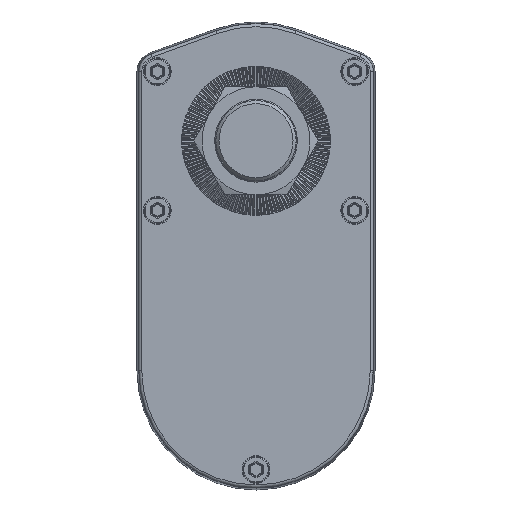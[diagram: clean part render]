
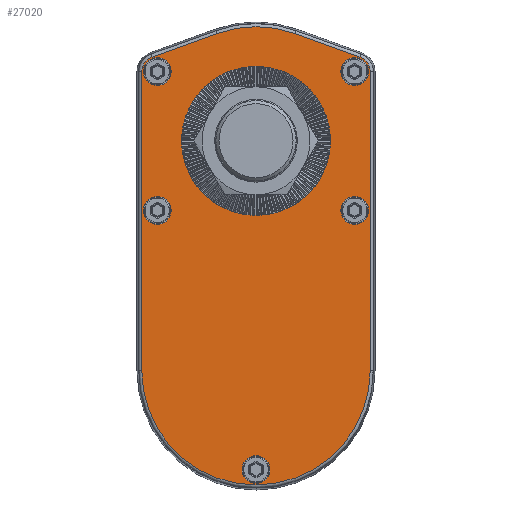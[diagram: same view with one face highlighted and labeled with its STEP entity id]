
A CAD part, top view. The second image highlights one B-rep face of the part: STEP entity #27020.
In plain terms, the highlighted planar face has unit normal (0, 0, 1).
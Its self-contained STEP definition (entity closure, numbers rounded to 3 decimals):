
#50 = CARTESIAN_POINT ( 'NONE',  ( -27.5, -22.54, 40. ) ) ;
#312 = CARTESIAN_POINT ( 'NONE',  ( -37.012, -74.495, 40. ) ) ;
#554 = DIRECTION ( 'NONE',  ( -1., 0., 0. ) ) ;
#649 = DIRECTION ( 'NONE',  ( 1., 0., 0. ) ) ;
#801 = FACE_BOUND ( 'NONE', #1727, .T. ) ;
#1130 = VECTOR ( 'NONE', #19220, 1000. ) ;
#1343 = CARTESIAN_POINT ( 'NONE',  ( -37.012, -74.495, 40. ) ) ;
#1723 = CIRCLE ( 'NONE', #25064, 4.5 ) ;
#1727 = EDGE_LOOP ( 'NONE', ( #3395 ) ) ;
#1791 = VERTEX_POINT ( 'NONE', #18309 ) ;
#1846 = DIRECTION ( 'NONE',  ( 0., 0., 1. ) ) ;
#1859 = EDGE_CURVE ( 'NONE', #26768, #26768, #19466, .T. ) ;
#1924 = EDGE_CURVE ( 'NONE', #21764, #17343, #24118, .T. ) ;
#1980 = CARTESIAN_POINT ( 'NONE',  ( -33.701, 27.179, 40. ) ) ;
#2049 = DIRECTION ( 'NONE',  ( 0., 0., 1. ) ) ;
#2366 = VERTEX_POINT ( 'NONE', #13646 ) ;
#2581 = CARTESIAN_POINT ( 'NONE',  ( 12.586, 34.812, 40. ) ) ;
#2607 = EDGE_CURVE ( 'NONE', #8477, #8477, #6921, .T. ) ;
#2701 = DIRECTION ( 'NONE',  ( 0., 1., 0. ) ) ;
#2868 = CARTESIAN_POINT ( 'NONE',  ( 0., 0., 40. ) ) ;
#3239 = CARTESIAN_POINT ( 'NONE',  ( 32., -22.54, 40. ) ) ;
#3290 = EDGE_CURVE ( 'NONE', #2366, #2366, #5477, .T. ) ;
#3395 = ORIENTED_EDGE ( 'NONE', *, *, #2607, .F. ) ;
#3816 = DIRECTION ( 'NONE',  ( 0., 0., 1. ) ) ;
#4053 = ORIENTED_EDGE ( 'NONE', *, *, #3290, .F. ) ;
#4107 = AXIS2_PLACEMENT_3D ( 'NONE', #2868, #18927, #5218 ) ;
#4704 = DIRECTION ( 'NONE',  ( 0., 0., 1. ) ) ;
#5218 = DIRECTION ( 'NONE',  ( -1., 0., 0. ) ) ;
#5477 = CIRCLE ( 'NONE', #11024, 4.5 ) ;
#5572 = DIRECTION ( 'NONE',  ( -1., 0., 0. ) ) ;
#5714 = ORIENTED_EDGE ( 'NONE', *, *, #21223, .T. ) ;
#5815 = ORIENTED_EDGE ( 'NONE', *, *, #8121, .T. ) ;
#6061 = CARTESIAN_POINT ( 'NONE',  ( 32., 22.46, 40. ) ) ;
#6317 = DIRECTION ( 'NONE',  ( -1., 0., 0. ) ) ;
#6454 = EDGE_CURVE ( 'NONE', #10078, #25250, #7878, .T. ) ;
#6917 = FACE_BOUND ( 'NONE', #20520, .T. ) ;
#6921 = CIRCLE ( 'NONE', #4107, 24.1 ) ;
#6964 = EDGE_LOOP ( 'NONE', ( #7459 ) ) ;
#7317 = DIRECTION ( 'NONE',  ( -0.94, 0.34, 0. ) ) ;
#7398 = VERTEX_POINT ( 'NONE', #9420 ) ;
#7459 = ORIENTED_EDGE ( 'NONE', *, *, #17845, .F. ) ;
#7653 = FACE_BOUND ( 'NONE', #24485, .T. ) ;
#7662 = AXIS2_PLACEMENT_3D ( 'NONE', #15615, #1846, #17907 ) ;
#7878 = LINE ( 'NONE', #14145, #19369 ) ;
#8121 = EDGE_CURVE ( 'NONE', #9553, #1791, #22142, .T. ) ;
#8133 = ORIENTED_EDGE ( 'NONE', *, *, #1924, .T. ) ;
#8325 = DIRECTION ( 'NONE',  ( -1., 0., 0. ) ) ;
#8477 = VERTEX_POINT ( 'NONE', #27385 ) ;
#8801 = ORIENTED_EDGE ( 'NONE', *, *, #6454, .T. ) ;
#9032 = CARTESIAN_POINT ( 'NONE',  ( -27.5, 22.46, 40. ) ) ;
#9238 = VECTOR ( 'NONE', #7317, 1000. ) ;
#9420 = CARTESIAN_POINT ( 'NONE',  ( 4.5, -106.54, 40. ) ) ;
#9435 = ORIENTED_EDGE ( 'NONE', *, *, #1859, .F. ) ;
#9553 = VERTEX_POINT ( 'NONE', #18093 ) ;
#10053 = CARTESIAN_POINT ( 'NONE',  ( 37.012, -74.495, 40. ) ) ;
#10078 = VERTEX_POINT ( 'NONE', #10053 ) ;
#10882 = EDGE_LOOP ( 'NONE', ( #21646 ) ) ;
#11024 = AXIS2_PLACEMENT_3D ( 'NONE', #6061, #22081, #8325 ) ;
#11645 = ORIENTED_EDGE ( 'NONE', *, *, #28551, .T. ) ;
#12015 = CARTESIAN_POINT ( 'NONE',  ( -31.995, 22.46, 40. ) ) ;
#12027 = ORIENTED_EDGE ( 'NONE', *, *, #25101, .F. ) ;
#12217 = VECTOR ( 'NONE', #15109, 1000. ) ;
#13004 = FACE_BOUND ( 'NONE', #6964, .T. ) ;
#13646 = CARTESIAN_POINT ( 'NONE',  ( 27.5, 22.46, 40. ) ) ;
#13750 = AXIS2_PLACEMENT_3D ( 'NONE', #3239, #19276, #5572 ) ;
#14145 = CARTESIAN_POINT ( 'NONE',  ( 37.012, 22.46, 40. ) ) ;
#14286 = CARTESIAN_POINT ( 'NONE',  ( -37.012, 22.46, 40. ) ) ;
#14319 = DIRECTION ( 'NONE',  ( 0., 0., 1. ) ) ;
#14339 = DIRECTION ( 'NONE',  ( -1., 0., 0. ) ) ;
#14361 = AXIS2_PLACEMENT_3D ( 'NONE', #17532, #3816, #19859 ) ;
#14404 = DIRECTION ( 'NONE',  ( 0., 0., 1. ) ) ;
#14410 = EDGE_LOOP ( 'NONE', ( #12027 ) ) ;
#14434 = CIRCLE ( 'NONE', #14649, 37.012 ) ;
#14649 = AXIS2_PLACEMENT_3D ( 'NONE', #28092, #14319, #554 ) ;
#15109 = DIRECTION ( 'NONE',  ( 0., -1., 0. ) ) ;
#15210 = VERTEX_POINT ( 'NONE', #312 ) ;
#15224 = AXIS2_PLACEMENT_3D ( 'NONE', #18411, #4704, #20742 ) ;
#15252 = CIRCLE ( 'NONE', #13750, 4.5 ) ;
#15615 = CARTESIAN_POINT ( 'NONE',  ( 0., -106.54, 40. ) ) ;
#15796 = CARTESIAN_POINT ( 'NONE',  ( -32., -22.54, 40. ) ) ;
#16370 = VERTEX_POINT ( 'NONE', #50 ) ;
#16554 = EDGE_CURVE ( 'NONE', #1791, #21764, #29131, .T. ) ;
#16797 = ORIENTED_EDGE ( 'NONE', *, *, #19345, .T. ) ;
#17343 = VERTEX_POINT ( 'NONE', #1980 ) ;
#17532 = CARTESIAN_POINT ( 'NONE',  ( 31.995, 22.46, 40. ) ) ;
#17692 = CARTESIAN_POINT ( 'NONE',  ( 0., 0., 40. ) ) ;
#17818 = CARTESIAN_POINT ( 'NONE',  ( 37.012, 22.46, 40. ) ) ;
#17845 = EDGE_CURVE ( 'NONE', #16370, #16370, #1723, .T. ) ;
#17907 = DIRECTION ( 'NONE',  ( 1., 0., 0. ) ) ;
#18093 = CARTESIAN_POINT ( 'NONE',  ( 33.701, 27.179, 40. ) ) ;
#18099 = DIRECTION ( 'NONE',  ( 1., 0., 0. ) ) ;
#18309 = CARTESIAN_POINT ( 'NONE',  ( 12.586, 34.812, 40. ) ) ;
#18411 = CARTESIAN_POINT ( 'NONE',  ( 0., 0., 40. ) ) ;
#18927 = DIRECTION ( 'NONE',  ( 0., 0., 1. ) ) ;
#19118 = FACE_BOUND ( 'NONE', #10882, .T. ) ;
#19156 = CIRCLE ( 'NONE', #7662, 4.5 ) ;
#19220 = DIRECTION ( 'NONE',  ( -0.94, -0.34, 0. ) ) ;
#19276 = DIRECTION ( 'NONE',  ( 0., 0., 1. ) ) ;
#19345 = EDGE_CURVE ( 'NONE', #25250, #9553, #27929, .T. ) ;
#19369 = VECTOR ( 'NONE', #2701, 1000. ) ;
#19466 = CIRCLE ( 'NONE', #25396, 4.5 ) ;
#19604 = EDGE_CURVE ( 'NONE', #17343, #29051, #22880, .T. ) ;
#19830 = FACE_BOUND ( 'NONE', #14410, .T. ) ;
#19859 = DIRECTION ( 'NONE',  ( -1., 0., 0. ) ) ;
#20028 = DIRECTION ( 'NONE',  ( 0., 0., -1. ) ) ;
#20520 = EDGE_LOOP ( 'NONE', ( #9435 ) ) ;
#20742 = DIRECTION ( 'NONE',  ( -1., 0., 0. ) ) ;
#20860 = CARTESIAN_POINT ( 'NONE',  ( 27.5, -22.54, 40. ) ) ;
#21223 = EDGE_CURVE ( 'NONE', #29051, #15210, #24393, .T. ) ;
#21343 = ORIENTED_EDGE ( 'NONE', *, *, #19604, .T. ) ;
#21646 = ORIENTED_EDGE ( 'NONE', *, *, #26520, .F. ) ;
#21764 = VERTEX_POINT ( 'NONE', #22492 ) ;
#21888 = AXIS2_PLACEMENT_3D ( 'NONE', #17692, #20028, #6317 ) ;
#22081 = DIRECTION ( 'NONE',  ( 0., 0., 1. ) ) ;
#22142 = LINE ( 'NONE', #2581, #9238 ) ;
#22144 = ORIENTED_EDGE ( 'NONE', *, *, #16554, .T. ) ;
#22492 = CARTESIAN_POINT ( 'NONE',  ( -12.586, 34.812, 40. ) ) ;
#22880 = CIRCLE ( 'NONE', #24523, 5.017 ) ;
#24118 = LINE ( 'NONE', #28463, #1130 ) ;
#24393 = LINE ( 'NONE', #1343, #12217 ) ;
#24485 = EDGE_LOOP ( 'NONE', ( #4053 ) ) ;
#24523 = AXIS2_PLACEMENT_3D ( 'NONE', #12015, #28107, #14339 ) ;
#25064 = AXIS2_PLACEMENT_3D ( 'NONE', #15796, #2049, #18099 ) ;
#25101 = EDGE_CURVE ( 'NONE', #25686, #25686, #15252, .T. ) ;
#25116 = EDGE_LOOP ( 'NONE', ( #5714, #11645, #8801, #16797, #5815, #22144, #8133, #21343 ) ) ;
#25197 = FACE_OUTER_BOUND ( 'NONE', #25116, .T. ) ;
#25250 = VERTEX_POINT ( 'NONE', #17818 ) ;
#25396 = AXIS2_PLACEMENT_3D ( 'NONE', #28184, #14404, #649 ) ;
#25686 = VERTEX_POINT ( 'NONE', #20860 ) ;
#26520 = EDGE_CURVE ( 'NONE', #7398, #7398, #19156, .T. ) ;
#26638 = PLANE ( 'NONE',  #21888 ) ;
#26768 = VERTEX_POINT ( 'NONE', #9032 ) ;
#27020 = ADVANCED_FACE ( 'NONE', ( #25197, #7653, #19830, #19118, #13004, #6917, #801 ), #26638, .F. ) ;
#27385 = CARTESIAN_POINT ( 'NONE',  ( -24.1, 0., 40. ) ) ;
#27929 = CIRCLE ( 'NONE', #14361, 5.017 ) ;
#28092 = CARTESIAN_POINT ( 'NONE',  ( 0., -74.495, 40. ) ) ;
#28107 = DIRECTION ( 'NONE',  ( 0., 0., 1. ) ) ;
#28184 = CARTESIAN_POINT ( 'NONE',  ( -32., 22.46, 40. ) ) ;
#28463 = CARTESIAN_POINT ( 'NONE',  ( -33.701, 27.179, 40. ) ) ;
#28551 = EDGE_CURVE ( 'NONE', #15210, #10078, #14434, .T. ) ;
#29051 = VERTEX_POINT ( 'NONE', #14286 ) ;
#29131 = CIRCLE ( 'NONE', #15224, 37.017 ) ;
